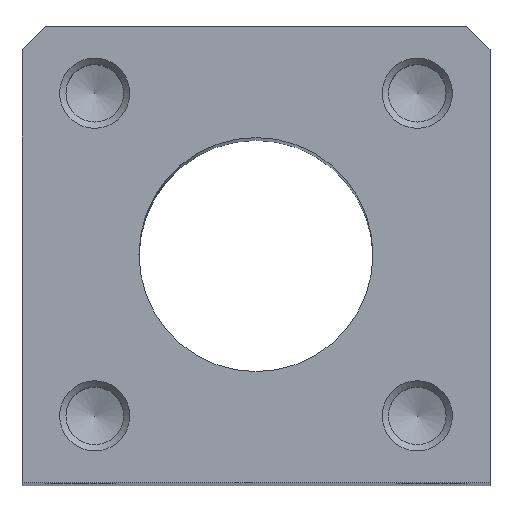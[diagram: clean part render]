
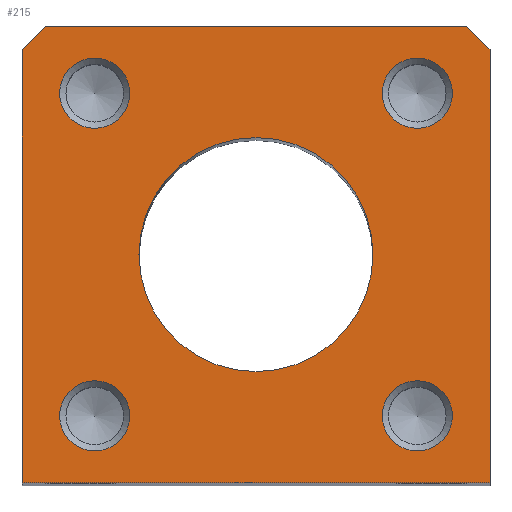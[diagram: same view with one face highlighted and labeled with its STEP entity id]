
A CAD part, top view. The second image highlights one B-rep face of the part: STEP entity #215.
In plain terms, the highlighted planar face has unit normal (0, 0, 1).
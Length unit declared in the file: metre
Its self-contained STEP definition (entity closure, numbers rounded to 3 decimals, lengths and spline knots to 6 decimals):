
#215 = ADVANCED_FACE( '', ( #486, #487, #488, #489, #490, #491 ), #492, .F. );
#486 = FACE_BOUND( '', #755, .T. );
#487 = FACE_BOUND( '', #756, .T. );
#488 = FACE_BOUND( '', #757, .T. );
#489 = FACE_BOUND( '', #758, .T. );
#490 = FACE_BOUND( '', #759, .T. );
#491 = FACE_OUTER_BOUND( '', #760, .T. );
#492 = PLANE( '', #761 );
#755 = EDGE_LOOP( '', ( #1167 ) );
#756 = EDGE_LOOP( '', ( #1168 ) );
#757 = EDGE_LOOP( '', ( #1169 ) );
#758 = EDGE_LOOP( '', ( #1170 ) );
#759 = EDGE_LOOP( '', ( #1171 ) );
#760 = EDGE_LOOP( '', ( #1172, #1173, #1174, #1175, #1176, #1177 ) );
#761 = AXIS2_PLACEMENT_3D( '', #1178, #1179, #1180 );
#1167 = ORIENTED_EDGE( '', *, *, #1223, .T. );
#1168 = ORIENTED_EDGE( '', *, *, #1211, .T. );
#1169 = ORIENTED_EDGE( '', *, *, #1197, .F. );
#1170 = ORIENTED_EDGE( '', *, *, #1214, .F. );
#1171 = ORIENTED_EDGE( '', *, *, #1228, .T. );
#1172 = ORIENTED_EDGE( '', *, *, #1235, .F. );
#1173 = ORIENTED_EDGE( '', *, *, #1315, .T. );
#1174 = ORIENTED_EDGE( '', *, *, #1191, .F. );
#1175 = ORIENTED_EDGE( '', *, *, #1330, .F. );
#1176 = ORIENTED_EDGE( '', *, *, #1269, .F. );
#1177 = ORIENTED_EDGE( '', *, *, #1328, .T. );
#1178 = CARTESIAN_POINT( '', ( -0.02, 0.0195, 0. ) );
#1179 = DIRECTION( '', ( 0., 0., -1. ) );
#1180 = DIRECTION( '', ( 0., 1., 0. ) );
#1191 = EDGE_CURVE( '', #1342, #1343, #1344, .T. );
#1197 = EDGE_CURVE( '', #1353, #1353, #1354, .T. );
#1211 = EDGE_CURVE( '', #1372, #1372, #1373, .T. );
#1214 = EDGE_CURVE( '', #1377, #1377, #1378, .T. );
#1223 = EDGE_CURVE( '', #1392, #1392, #1393, .T. );
#1228 = EDGE_CURVE( '', #1400, #1400, #1401, .T. );
#1235 = EDGE_CURVE( '', #1409, #1411, #1412, .T. );
#1269 = EDGE_CURVE( '', #1461, #1463, #1464, .T. );
#1315 = EDGE_CURVE( '', #1409, #1343, #1522, .F. );
#1328 = EDGE_CURVE( '', #1461, #1411, #1539, .F. );
#1330 = EDGE_CURVE( '', #1463, #1342, #1541, .T. );
#1342 = VERTEX_POINT( '', #1553 );
#1343 = VERTEX_POINT( '', #1554 );
#1344 = LINE( '', #1555, #1556 );
#1353 = VERTEX_POINT( '', #1568 );
#1354 = CIRCLE( '', #1569, 0.003 );
#1372 = VERTEX_POINT( '', #1587 );
#1373 = CIRCLE( '', #1588, 0.003 );
#1377 = VERTEX_POINT( '', #1592 );
#1378 = CIRCLE( '', #1593, 0.003 );
#1392 = VERTEX_POINT( '', #1607 );
#1393 = CIRCLE( '', #1608, 0.01 );
#1400 = VERTEX_POINT( '', #1615 );
#1401 = CIRCLE( '', #1616, 0.003 );
#1409 = VERTEX_POINT( '', #1625 );
#1411 = VERTEX_POINT( '', #1628 );
#1412 = LINE( '', #1629, #1630 );
#1461 = VERTEX_POINT( '', #1681 );
#1463 = VERTEX_POINT( '', #1684 );
#1464 = LINE( '', #1685, #1686 );
#1522 = LINE( '', #1748, #1749 );
#1539 = LINE( '', #1766, #1767 );
#1541 = LINE( '', #1769, #1770 );
#1553 = CARTESIAN_POINT( '', ( -0.02, -0.0195, 0. ) );
#1554 = CARTESIAN_POINT( '', ( -0.02, 0.0175, 0. ) );
#1555 = CARTESIAN_POINT( '', ( -0.02, -0.0195, 0. ) );
#1556 = VECTOR( '', #1782, 1. );
#1568 = CARTESIAN_POINT( '', ( 0.010789, -0.013789, 0. ) );
#1569 = AXIS2_PLACEMENT_3D( '', #1789, #1790, #1791 );
#1587 = CARTESIAN_POINT( '', ( -0.010789, -0.013789, 0. ) );
#1588 = AXIS2_PLACEMENT_3D( '', #1810, #1811, #1812 );
#1592 = CARTESIAN_POINT( '', ( -0.010789, 0.013789, 0. ) );
#1593 = AXIS2_PLACEMENT_3D( '', #1816, #1817, #1818 );
#1607 = CARTESIAN_POINT( '', ( -0.01, 0., 0. ) );
#1608 = AXIS2_PLACEMENT_3D( '', #1834, #1835, #1836 );
#1615 = CARTESIAN_POINT( '', ( 0.010789, 0.013789, 0. ) );
#1616 = AXIS2_PLACEMENT_3D( '', #1843, #1844, #1845 );
#1625 = CARTESIAN_POINT( '', ( -0.018, 0.0195, 0. ) );
#1628 = CARTESIAN_POINT( '', ( 0.018, 0.0195, 0. ) );
#1629 = CARTESIAN_POINT( '', ( -0.02, 0.0195, 0. ) );
#1630 = VECTOR( '', #1851, 1. );
#1681 = CARTESIAN_POINT( '', ( 0.02, 0.0175, 0. ) );
#1684 = CARTESIAN_POINT( '', ( 0.02, -0.0195, 0. ) );
#1685 = CARTESIAN_POINT( '', ( 0.02, 0.0195, 0. ) );
#1686 = VECTOR( '', #1903, 1. );
#1748 = CARTESIAN_POINT( '', ( -0.018, 0.0195, 0. ) );
#1749 = VECTOR( '', #1953, 1. );
#1766 = CARTESIAN_POINT( '', ( 0.02, 0.0175, 0. ) );
#1767 = VECTOR( '', #1966, 1. );
#1769 = CARTESIAN_POINT( '', ( 0.02, -0.0195, 0. ) );
#1770 = VECTOR( '', #1967, 1. );
#1782 = DIRECTION( '', ( 0., 1., 0. ) );
#1789 = CARTESIAN_POINT( '', ( 0.013789, -0.013789, 0. ) );
#1790 = DIRECTION( '', ( 0., 0., 1. ) );
#1791 = DIRECTION( '', ( -1., 0., 0. ) );
#1810 = CARTESIAN_POINT( '', ( -0.013789, -0.013789, 0. ) );
#1811 = DIRECTION( '', ( 0., 0., -1. ) );
#1812 = DIRECTION( '', ( 1., 0., 0. ) );
#1816 = CARTESIAN_POINT( '', ( -0.013789, 0.013789, 0. ) );
#1817 = DIRECTION( '', ( 0., 0., 1. ) );
#1818 = DIRECTION( '', ( 1., 0., 0. ) );
#1834 = CARTESIAN_POINT( '', ( 0., 0., 0. ) );
#1835 = DIRECTION( '', ( 0., 0., -1. ) );
#1836 = DIRECTION( '', ( -1., 0., 0. ) );
#1843 = CARTESIAN_POINT( '', ( 0.013789, 0.013789, 0. ) );
#1844 = DIRECTION( '', ( 0., 0., -1. ) );
#1845 = DIRECTION( '', ( -1., 0., 0. ) );
#1851 = DIRECTION( '', ( 1., 0., 0. ) );
#1903 = DIRECTION( '', ( 0., -1., 0. ) );
#1953 = DIRECTION( '', ( 0.707, 0.707, 0. ) );
#1966 = DIRECTION( '', ( 0.707, -0.707, 0. ) );
#1967 = DIRECTION( '', ( -1., 0., 0. ) );
